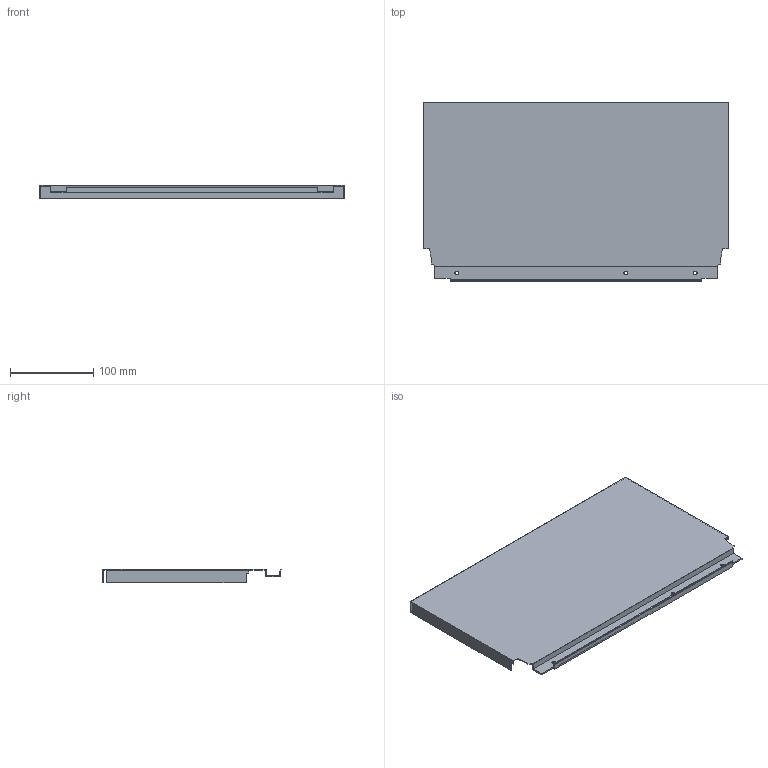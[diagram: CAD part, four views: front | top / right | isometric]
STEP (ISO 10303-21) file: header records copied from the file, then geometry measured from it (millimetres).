
FILE_DESCRIPTION (( 'STEP AP214' ), '1' );
FILE_NAME ('_DWD_XP Stahlrückwand_H214_KAB450_S16.step', '2010-07-08T13:02:47', ( 'grass' ), ( '' ), 'SwSTEP 2.0', 'SolidWorks 2010', '' );
FILE_SCHEMA (( 'AUTOMOTIVE_DESIGN' ));
Length unit declared in the file: millimetre
Products named in the file (1): _DWD_XP Stahlrückwand_H214_KAB450_S16
Bounding box: 367 x 214.58 x 16 mm (x, y, z)
Volume: 88552.3 mm3; surface area: 187722.1 mm2
Topology: 1 solids, 1 shells, 46 faces, 132 edges, 88 vertices
Faces by surface type: plane 40, cylinder 6
Entity records: 1534 total; most frequent: CARTESIAN_POINT 267, ORIENTED_EDGE 264, DIRECTION 238, EDGE_CURVE 132, VECTOR 120, LINE 120, VERTEX_POINT 88, AXIS2_PLACEMENT_3D 59
